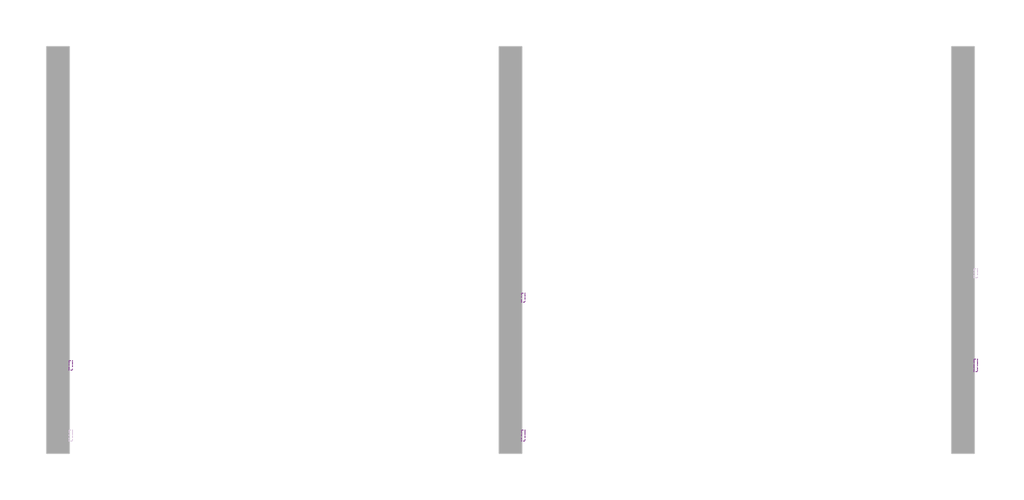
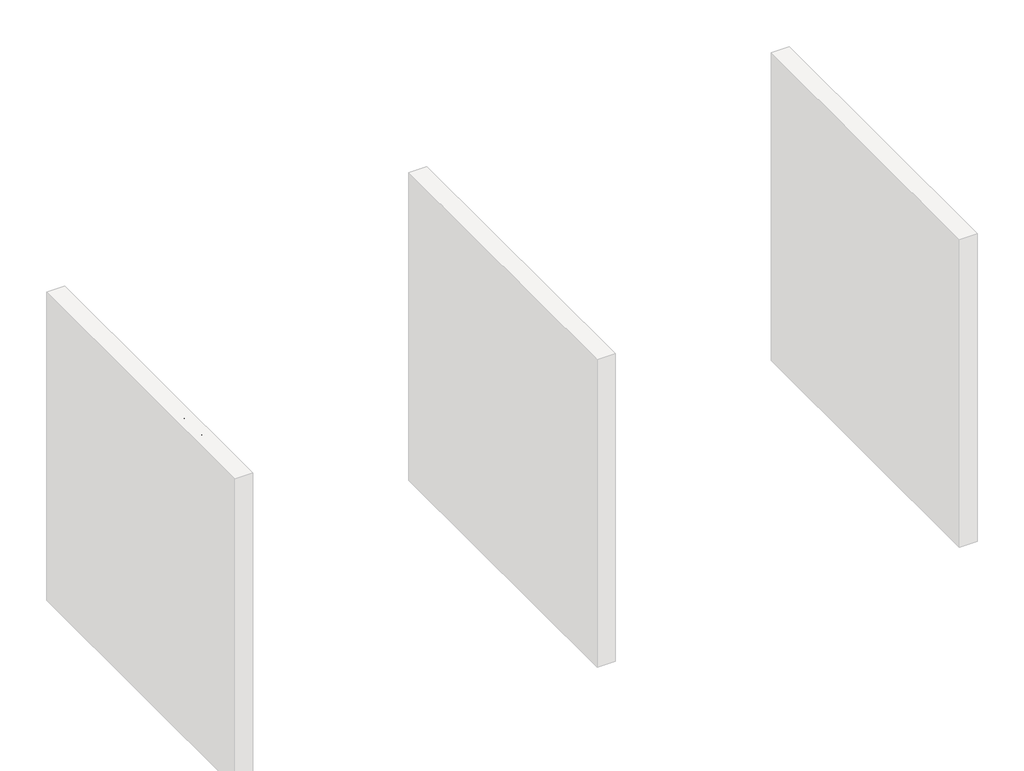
# One storey, part 5 of 7: 4 proxies.
"""IFC4 building model written with IfcOpenShell, lengths in millimetres."""

from ifc_helpers import new_model, si_unit, frame, origin, place, context, project, spatial, polyline, outline, extrude, element, save

model = new_model("IFC4")

# Units and contexts
model_context = context("Model", 3, world=origin())
ifc_project = project(units=[si_unit("LENGTHUNIT", "METRE", prefix="MILLI")], contexts=[model_context])

# Site, building, storey
site = spatial("IfcSite", under=ifc_project)
building = spatial("IfcBuilding", under=site)
storey = spatial("IfcBuildingStorey", under=building, Name="PORTOBELLO - SHOWROOM", Elevation=0.0)

# Proxies
placement = place(None, origin())
element("IfcBuildingElementProxy", 1, Name="10mm Arial", ObjectType="10mm Arial", at=placement, inside=storey, context=model_context, shape_type="SweptSolid", body=[
    extrude(outline(polyline([(3753.9778517, 2553.8086596), (3753.9778517, 2654.2649698), (3792.3111556, 2654.2649698), (3811.0854001, 2651.3096511), (3822.1709109, 2642.2229658), (3826.1808246, 2629.3716214), (3822.808573, 2617.6361858), (3812.6182417, 2608.7457042), (3824.9913395, 2599.3769761), (3829.3200843, 2583.754254), (3826.3647656, 2570.2529848), (3819.0439139, 2560.639002), (3808.1178187, 2555.537705), (3792.01685, 2553.8086596), (3753.9778517, 2553.8086596)]), holes=[polyline([(3766.5348905, 2613.4545938), (3789.4662015, 2613.4545938), (3802.8571061, 2614.5337143), (3810.9137218, 2619.1812902), (3813.6237859, 2627.3605332), (3811.0976628, 2635.552039), (3803.8626502, 2640.3958186), (3787.7248934, 2641.707931), (3766.5348905, 2641.707931), (3766.5348905, 2613.4545938)]), polyline([(3766.5348905, 2566.3656984), (3792.2866301, 2566.3656984), (3801.6063073, 2566.8562077), (3809.4912448, 2569.5907972), (3814.7151691, 2575.1703408), (3816.7630455, 2583.6316267), (3814.3595498, 2593.3927623), (3806.5727143, 2599.2175606), (3791.0603568, 2600.897555), (3766.5348905, 2600.897555), (3766.5348905, 2566.3656984)])]), frame((37576.625413, 0.0, 0.0), z_axis=(1.0, 0.0, 0.0), x_axis=(0.0, 1.0, 0.0)), (0.0, 0.0, 1.0), 20.0),
    extrude(outline(polyline([(37596.625413, 3857.5734215), (37596.625413, 3845.0163828), (37576.625413, 3845.0163828), (37576.625413, 3857.5734215), (37596.625413, 3857.5734215)])), frame((0.0, 0.0, 2641.707931), z_axis=(0.0, 0.0, 1.0), x_axis=(1.0, 0.0, 0.0)), (0.0, 0.0, 1.0), 12.5570388),
    extrude(outline(polyline([(37596.625413, 3857.5734215), (37596.625413, 3845.0163828), (37576.625413, 3845.0163828), (37576.625413, 3857.5734215), (37596.625413, 3857.5734215)])), frame((0.0, 0.0, 2553.8086596), z_axis=(0.0, 0.0, 1.0), x_axis=(1.0, 0.0, 0.0)), (0.0, 0.0, 1.0), 73.7726028),
    extrude(outline(polyline([(3923.4978751, 2563.2264387), (3911.320981, 2554.7161019), (3897.8687627, 2552.2390298), (3887.3749288, 2553.7289519), (3879.6340785, 2558.1987181), (3874.8608096, 2564.9861409), (3873.26972, 2573.4290327), (3875.6732157, 2583.3618466), (3881.9885233, 2590.5723337), (3890.780903, 2594.692612), (3901.6456846, 2596.5810729), (3923.4242987, 2600.897555), (3923.4978751, 2603.6934582), (3920.0397843, 2612.9640844), (3906.1583704, 2616.5938535), (3893.4541788, 2614.178095), (3887.3963886, 2605.6064445), (3874.8393499, 2607.1760744), (3880.2717406, 2619.4388076), (3891.2100986, 2626.6247692), (3907.7770512, 2629.1508922), (3922.995103, 2626.9190748), (3931.591279, 2621.3150057), (3935.4417772, 2612.7924062), (3936.0549138, 2601.8049973), (3936.0549138, 2586.1822752), (3936.692576, 2564.3668729), (3939.1941735, 2553.8086596), (3926.6371348, 2553.8086596), (3923.4978751, 2563.2264387)]), holes=[polyline([(3923.4978751, 2588.3405162), (3903.2398399, 2584.490018), (3892.436372, 2582.4544043), (3887.5435414, 2579.1434664), (3885.8267588, 2574.3119495), (3889.5668924, 2567.5183953), (3900.5420386, 2564.7960685), (3913.2462301, 2567.8004382), (3921.4377359, 2575.0722389), (3923.4242987, 2584.7843236), (3923.4978751, 2588.3405162)])]), frame((37576.625413, 0.0, 0.0), z_axis=(1.0, 0.0, 0.0), x_axis=(0.0, 1.0, 0.0)), (0.0, 0.0, 1.0), 20.0),
    extrude(outline(polyline([(3953.3208422, 2553.8086596), (3953.3208422, 2627.5812624), (3965.8778809, 2627.5812624), (3965.8778809, 2617.2805665), (3975.479601, 2626.1833108), (3988.5884628, 2629.1508922), (4000.4465257, 2626.7596593), (4008.5399296, 2620.4811399), (4012.3045887, 2611.2473018), (4012.9667763, 2599.107196), (4012.9667763, 2553.8086596), (4000.4097375, 2553.8086596), (4000.4097375, 2597.4149388), (3998.962735, 2608.524975), (3993.8491753, 2614.3988242), (3985.2284739, 2616.5938535), (3971.6045773, 2611.6642347), (3967.309555, 2604.5211927), (3965.8778809, 2592.9513039), (3965.8778809, 2553.8086596), (3953.3208422, 2553.8086596)])), frame((37576.625413, 0.0, 0.0), z_axis=(1.0, 0.0, 0.0), x_axis=(0.0, 1.0, 0.0)), (0.0, 0.0, 1.0), 20.0),
    extrude(outline(polyline([(4077.3216, 2580.492367), (4089.8786388, 2578.9227372), (4086.3776284, 2567.7544529), (4079.7986721, 2559.3146268), (4070.7610377, 2554.007929), (4059.8839934, 2552.2390298), (4046.5268113, 2554.7069048), (4036.0820283, 2562.11053), (4029.3405908, 2574.1249428), (4027.0934449, 2590.4251809), (4030.9316804, 2611.28409), (4042.6303279, 2624.6872574), (4059.7123152, 2629.1508922), (4070.322645, 2627.6180506), (4078.8053907, 2623.0195257), (4084.890772, 2615.6005721), (4088.3090089, 2605.6064445), (4075.7519702, 2604.0368147), (4069.9271719, 2613.442331), (4059.810417, 2616.5938535), (4051.6955533, 2615.0426177), (4045.2545528, 2610.3889105), (4041.051501, 2602.3813457), (4039.6504837, 2590.7685374), (4041.0208441, 2578.9993792), (4045.1319254, 2570.9642233), (4051.4564301, 2566.3381072), (4059.4670605, 2564.7960685), (4071.300598, 2568.6465668), (4077.3216, 2580.492367)])), frame((37576.625413, 0.0, 0.0), z_axis=(1.0, 0.0, 0.0), x_axis=(0.0, 1.0, 0.0)), (0.0, 0.0, 1.0), 20.0),
    extrude(outline(polyline([(4097.726788, 2590.694961), (4100.4429834, 2608.4820555), (4108.5915696, 2620.9839119), (4118.6592735, 2627.1091472), (4130.7135402, 2629.1508922), (4143.9051754, 2626.6646231), (4154.4419289, 2619.2058156), (4161.3489134, 2607.3630811), (4163.6512415, 2591.7250306), (4159.5800141, 2569.3823308), (4147.7219511, 2556.7394529), (4130.7135402, 2552.2390298), (4117.3624895, 2554.7161019), (4106.8379987, 2562.1473182), (4100.0045907, 2574.2383731), (4097.726788, 2590.694961)]), holes=[polyline([(4110.2838268, 2590.7194865), (4111.7369606, 2579.3549985), (4116.0963623, 2571.2585289), (4122.6569245, 2566.4116836), (4130.7135402, 2564.7960685), (4138.7333677, 2566.4208807), (4145.2816672, 2571.2953171), (4149.6410689, 2579.4990856), (4151.0942028, 2591.1118939), (4149.6318718, 2602.1452881), (4145.244879, 2610.1313931), (4138.6873825, 2614.9782384), (4130.7135402, 2616.5938535), (4122.6569245, 2614.9843697), (4116.0963623, 2610.1559186), (4111.7369606, 2602.0778431), (4110.2838268, 2590.7194865)])]), frame((37576.625413, 0.0, 0.0), z_axis=(1.0, 0.0, 0.0), x_axis=(0.0, 1.0, 0.0)), (0.0, 0.0, 1.0), 20.0),
    extrude(outline(polyline([(4262.5379218, 2553.8086596), (4262.5379218, 2565.6544599), (4254.2299201, 2555.5928873), (4242.7458705, 2552.2390298), (4227.1967248, 2557.0950721), (4216.2093159, 2570.6453923), (4212.3097668, 2590.6213846), (4215.9027476, 2610.6096397), (4226.6694273, 2624.3684263), (4242.6968196, 2629.1508922), (4254.2728397, 2625.7295897), (4262.5379218, 2616.8391081), (4262.5379218, 2654.2649698), (4275.0949606, 2654.2649698), (4275.0949606, 2553.8086596), (4262.5379218, 2553.8086596)]), holes=[polyline([(4224.8668055, 2590.6704355), (4226.2831512, 2579.3120789), (4230.5321883, 2571.2340035), (4236.7064744, 2566.4055523), (4243.8985674, 2564.7960685), (4251.0875947, 2566.3319759), (4257.105531, 2570.9396979), (4261.1798241, 2578.7050736), (4262.5379218, 2589.7139424), (4261.1552987, 2601.749815), (4257.0074292, 2610.0946049), (4250.8362087, 2614.9690413), (4243.3835326, 2616.5938535), (4236.1178632, 2615.0334207), (4230.1643063, 2610.3521223), (4226.1911807, 2602.310835), (4224.8668055, 2590.6704355)])]), frame((37576.625413, 0.0, 0.0), z_axis=(1.0, 0.0, 0.0), x_axis=(0.0, 1.0, 0.0)), (0.0, 0.0, 1.0), 20.0),
    extrude(outline(polyline([(37596.625413, 4306.4875575), (37596.625413, 4293.9305188), (37576.625413, 4293.9305188), (37576.625413, 4306.4875575), (37596.625413, 4306.4875575)])), frame((0.0, 0.0, 2641.707931), z_axis=(0.0, 0.0, 1.0), x_axis=(1.0, 0.0, 0.0)), (0.0, 0.0, 1.0), 12.5570388),
    extrude(outline(polyline([(37596.625413, 4306.4875575), (37596.625413, 4293.9305188), (37576.625413, 4293.9305188), (37576.625413, 4306.4875575), (37596.625413, 4306.4875575)])), frame((0.0, 0.0, 2553.8086596), z_axis=(0.0, 0.0, 1.0), x_axis=(1.0, 0.0, 0.0)), (0.0, 0.0, 1.0), 73.7726028),
    extrude(outline(polyline([(4366.1334917, 2553.8086596), (4366.1334917, 2654.2649698), (4438.3364646, 2654.2649698), (4438.3364646, 2641.707931), (4378.6905304, 2641.707931), (4378.6905304, 2611.8849639), (4435.1972049, 2611.8849639), (4435.1972049, 2599.3279252), (4378.6905304, 2599.3279252), (4378.6905304, 2566.3656984), (4439.9060944, 2566.3656984), (4439.9060944, 2553.8086596), (4366.1334917, 2553.8086596)])), frame((37576.625413, 0.0, 0.0), z_axis=(1.0, 0.0, 0.0), x_axis=(0.0, 1.0, 0.0)), (0.0, 0.0, 1.0), 20.0),
    extrude(outline(polyline([(37596.625413, 4469.7290615), (37596.625413, 4457.1720227), (37576.625413, 4457.1720227), (37576.625413, 4469.7290615), (37596.625413, 4469.7290615)])), frame((0.0, 0.0, 2553.8086596), z_axis=(0.0, 0.0, 1.0), x_axis=(1.0, 0.0, 0.0)), (0.0, 0.0, 1.0), 100.4563101),
    extrude(outline(polyline([(4501.1216584, 2553.8086596), (4488.5646197, 2553.8086596), (4488.5646197, 2654.2649698), (4501.1216584, 2654.2649698), (4501.1216584, 2617.0107864), (4509.9140381, 2626.1158658), (4520.8401334, 2629.1508922), (4533.4216976, 2626.4163027), (4543.1828332, 2618.727569), (4549.1793097, 2606.7714042), (4551.3498135, 2591.798607), (4549.1026677, 2575.0354507), (4542.3612301, 2562.5642511), (4532.4682701, 2554.8203351), (4520.766557, 2552.2390298), (4509.6013384, 2555.5683618), (4501.1216584, 2565.556358), (4501.1216584, 2553.8086596)]), holes=[polyline([(4501.1216584, 2591.2099958), (4504.5552237, 2573.6497619), (4511.1341801, 2567.0094919), (4519.6874365, 2564.7960685), (4526.9347118, 2566.4270121), (4533.127392, 2571.3198426), (4537.3764291, 2579.4439033), (4538.7927747, 2590.7685374), (4537.434677, 2602.2587184), (4533.360384, 2610.2908086), (4527.3608417, 2615.0180923), (4520.2269967, 2616.5938535), (4512.9797214, 2614.96291), (4506.7870412, 2610.0700794), (4502.5380041, 2602.0931715), (4501.1216584, 2591.2099958)])]), frame((37576.625413, 0.0, 0.0), z_axis=(1.0, 0.0, 0.0), x_axis=(0.0, 1.0, 0.0)), (0.0, 0.0, 1.0), 20.0),
    extrude(outline(polyline([(4612.5653775, 2563.2264387), (4600.3884835, 2554.7161019), (4586.9362652, 2552.2390298), (4576.4424313, 2553.7289519), (4568.701581, 2558.1987181), (4563.9283121, 2564.9861409), (4562.3372224, 2573.4290327), (4564.7407181, 2583.3618466), (4571.0560257, 2590.5723337), (4579.8484054, 2594.692612), (4590.713187, 2596.5810729), (4612.4918011, 2600.897555), (4612.5653775, 2603.6934582), (4609.1072868, 2612.9640844), (4595.2258728, 2616.5938535), (4582.5216812, 2614.178095), (4576.4638911, 2605.6064445), (4563.9068523, 2607.1760744), (4569.3392431, 2619.4388076), (4580.2776011, 2626.6247692), (4596.8445536, 2629.1508922), (4612.0626055, 2626.9190748), (4620.6587814, 2621.3150057), (4624.5092796, 2612.7924062), (4625.1224163, 2601.8049973), (4625.1224163, 2586.1822752), (4625.7600784, 2564.3668729), (4628.261676, 2553.8086596), (4615.7046372, 2553.8086596), (4612.5653775, 2563.2264387)]), holes=[polyline([(4612.5653775, 2588.3405162), (4592.3073423, 2584.490018), (4581.5038744, 2582.4544043), (4576.6110439, 2579.1434664), (4574.8942612, 2574.3119495), (4578.6343948, 2567.5183953), (4589.609541, 2564.7960685), (4602.3137326, 2567.8004382), (4610.5052383, 2575.0722389), (4612.4918011, 2584.7843236), (4612.5653775, 2588.3405162)])]), frame((37576.625413, 0.0, 0.0), z_axis=(1.0, 0.0, 0.0), x_axis=(0.0, 1.0, 0.0)), (0.0, 0.0, 1.0), 20.0),
])
element("IfcBuildingElementProxy", 2, Name="10mm Arial", ObjectType="10mm Arial", at=placement, inside=storey, context=model_context, shape_type="SweptSolid", body=[
    extrude(outline(polyline([(3753.9778517, 2553.8086596), (3753.9778517, 2654.2649698), (3792.3111556, 2654.2649698), (3811.0854001, 2651.3096511), (3822.1709109, 2642.2229658), (3826.1808246, 2629.3716214), (3822.808573, 2617.6361858), (3812.6182417, 2608.7457042), (3824.9913395, 2599.3769761), (3829.3200843, 2583.754254), (3826.3647656, 2570.2529848), (3819.0439139, 2560.639002), (3808.1178187, 2555.537705), (3792.01685, 2553.8086596), (3753.9778517, 2553.8086596)]), holes=[polyline([(3766.5348905, 2613.4545938), (3789.4662015, 2613.4545938), (3802.8571061, 2614.5337143), (3810.9137218, 2619.1812902), (3813.6237859, 2627.3605332), (3811.0976628, 2635.552039), (3803.8626502, 2640.3958186), (3787.7248934, 2641.707931), (3766.5348905, 2641.707931), (3766.5348905, 2613.4545938)]), polyline([(3766.5348905, 2566.3656984), (3792.2866301, 2566.3656984), (3801.6063073, 2566.8562077), (3809.4912448, 2569.5907972), (3814.7151691, 2575.1703408), (3816.7630455, 2583.6316267), (3814.3595498, 2593.3927623), (3806.5727143, 2599.2175606), (3791.0603568, 2600.897555), (3766.5348905, 2600.897555), (3766.5348905, 2566.3656984)])]), frame((40576.625413, 0.0, 0.0), z_axis=(1.0, 0.0, 0.0), x_axis=(0.0, 1.0, 0.0)), (0.0, 0.0, 1.0), 20.0),
    extrude(outline(polyline([(40596.625413, 3857.5734215), (40596.625413, 3845.0163828), (40576.625413, 3845.0163828), (40576.625413, 3857.5734215), (40596.625413, 3857.5734215)])), frame((0.0, 0.0, 2641.707931), z_axis=(0.0, 0.0, 1.0), x_axis=(1.0, 0.0, 0.0)), (0.0, 0.0, 1.0), 12.5570388),
    extrude(outline(polyline([(40596.625413, 3857.5734215), (40596.625413, 3845.0163828), (40576.625413, 3845.0163828), (40576.625413, 3857.5734215), (40596.625413, 3857.5734215)])), frame((0.0, 0.0, 2553.8086596), z_axis=(0.0, 0.0, 1.0), x_axis=(1.0, 0.0, 0.0)), (0.0, 0.0, 1.0), 73.7726028),
    extrude(outline(polyline([(3923.4978751, 2563.2264387), (3911.320981, 2554.7161019), (3897.8687627, 2552.2390298), (3887.3749288, 2553.7289519), (3879.6340785, 2558.1987181), (3874.8608096, 2564.9861409), (3873.26972, 2573.4290327), (3875.6732157, 2583.3618466), (3881.9885233, 2590.5723337), (3890.780903, 2594.692612), (3901.6456846, 2596.5810729), (3923.4242987, 2600.897555), (3923.4978751, 2603.6934582), (3920.0397843, 2612.9640844), (3906.1583704, 2616.5938535), (3893.4541788, 2614.178095), (3887.3963886, 2605.6064445), (3874.8393499, 2607.1760744), (3880.2717406, 2619.4388076), (3891.2100986, 2626.6247692), (3907.7770512, 2629.1508922), (3922.995103, 2626.9190748), (3931.591279, 2621.3150057), (3935.4417772, 2612.7924062), (3936.0549138, 2601.8049973), (3936.0549138, 2586.1822752), (3936.692576, 2564.3668729), (3939.1941735, 2553.8086596), (3926.6371348, 2553.8086596), (3923.4978751, 2563.2264387)]), holes=[polyline([(3923.4978751, 2588.3405162), (3903.2398399, 2584.490018), (3892.436372, 2582.4544043), (3887.5435414, 2579.1434664), (3885.8267588, 2574.3119495), (3889.5668924, 2567.5183953), (3900.5420386, 2564.7960685), (3913.2462301, 2567.8004382), (3921.4377359, 2575.0722389), (3923.4242987, 2584.7843236), (3923.4978751, 2588.3405162)])]), frame((40576.625413, 0.0, 0.0), z_axis=(1.0, 0.0, 0.0), x_axis=(0.0, 1.0, 0.0)), (0.0, 0.0, 1.0), 20.0),
    extrude(outline(polyline([(3953.3208422, 2553.8086596), (3953.3208422, 2627.5812624), (3965.8778809, 2627.5812624), (3965.8778809, 2617.2805665), (3975.479601, 2626.1833108), (3988.5884628, 2629.1508922), (4000.4465257, 2626.7596593), (4008.5399296, 2620.4811399), (4012.3045887, 2611.2473018), (4012.9667763, 2599.107196), (4012.9667763, 2553.8086596), (4000.4097375, 2553.8086596), (4000.4097375, 2597.4149388), (3998.962735, 2608.524975), (3993.8491753, 2614.3988242), (3985.2284739, 2616.5938535), (3971.6045773, 2611.6642347), (3967.309555, 2604.5211927), (3965.8778809, 2592.9513039), (3965.8778809, 2553.8086596), (3953.3208422, 2553.8086596)])), frame((40576.625413, 0.0, 0.0), z_axis=(1.0, 0.0, 0.0), x_axis=(0.0, 1.0, 0.0)), (0.0, 0.0, 1.0), 20.0),
    extrude(outline(polyline([(4077.3216, 2580.492367), (4089.8786388, 2578.9227372), (4086.3776284, 2567.7544529), (4079.7986721, 2559.3146268), (4070.7610377, 2554.007929), (4059.8839934, 2552.2390298), (4046.5268113, 2554.7069048), (4036.0820283, 2562.11053), (4029.3405908, 2574.1249428), (4027.0934449, 2590.4251809), (4030.9316804, 2611.28409), (4042.6303279, 2624.6872574), (4059.7123152, 2629.1508922), (4070.322645, 2627.6180506), (4078.8053907, 2623.0195257), (4084.890772, 2615.6005721), (4088.3090089, 2605.6064445), (4075.7519702, 2604.0368147), (4069.9271719, 2613.442331), (4059.810417, 2616.5938535), (4051.6955533, 2615.0426177), (4045.2545528, 2610.3889105), (4041.051501, 2602.3813457), (4039.6504837, 2590.7685374), (4041.0208441, 2578.9993792), (4045.1319254, 2570.9642233), (4051.4564301, 2566.3381072), (4059.4670605, 2564.7960685), (4071.300598, 2568.6465668), (4077.3216, 2580.492367)])), frame((40576.625413, 0.0, 0.0), z_axis=(1.0, 0.0, 0.0), x_axis=(0.0, 1.0, 0.0)), (0.0, 0.0, 1.0), 20.0),
    extrude(outline(polyline([(4097.726788, 2590.694961), (4100.4429834, 2608.4820555), (4108.5915696, 2620.9839119), (4118.6592735, 2627.1091472), (4130.7135402, 2629.1508922), (4143.9051754, 2626.6646231), (4154.4419289, 2619.2058156), (4161.3489134, 2607.3630811), (4163.6512415, 2591.7250306), (4159.5800141, 2569.3823308), (4147.7219511, 2556.7394529), (4130.7135402, 2552.2390298), (4117.3624895, 2554.7161019), (4106.8379987, 2562.1473182), (4100.0045907, 2574.2383731), (4097.726788, 2590.694961)]), holes=[polyline([(4110.2838268, 2590.7194865), (4111.7369606, 2579.3549985), (4116.0963623, 2571.2585289), (4122.6569245, 2566.4116836), (4130.7135402, 2564.7960685), (4138.7333677, 2566.4208807), (4145.2816672, 2571.2953171), (4149.6410689, 2579.4990856), (4151.0942028, 2591.1118939), (4149.6318718, 2602.1452881), (4145.244879, 2610.1313931), (4138.6873825, 2614.9782384), (4130.7135402, 2616.5938535), (4122.6569245, 2614.9843697), (4116.0963623, 2610.1559186), (4111.7369606, 2602.0778431), (4110.2838268, 2590.7194865)])]), frame((40576.625413, 0.0, 0.0), z_axis=(1.0, 0.0, 0.0), x_axis=(0.0, 1.0, 0.0)), (0.0, 0.0, 1.0), 20.0),
    extrude(outline(polyline([(4289.2216292, 2589.5177386), (4301.778668, 2586.2803771), (4295.9845266, 2571.6478707), (4286.8917099, 2560.9578331), (4274.9478078, 2554.4187306), (4260.60041, 2552.2390298), (4246.0353487, 2553.8883674), (4234.4685256, 2558.8363802), (4225.6025695, 2566.91139), (4219.1401091, 2577.9417185), (4213.8793966, 2604.7971042), (4215.366253, 2619.4449389), (4219.8268222, 2632.0939482), (4227.0281123, 2642.3425274), (4236.7371312, 2649.7890722), (4248.2518377, 2654.3232178), (4260.8701901, 2655.8345996), (4274.6381738, 2653.8786937), (4286.0210559, 2648.0109759), (4294.6632171, 2638.5931968), (4300.2090381, 2625.9871071), (4287.6519994, 2622.9950002), (4277.3513035, 2638.4337812), (4260.3796808, 2643.2775609), (4240.7347823, 2637.9064837), (4229.6370087, 2623.4855095), (4226.4364354, 2604.8216296), (4230.2256199, 2583.1901683), (4242.0223692, 2569.370068), (4259.3496112, 2564.7960685), (4269.8311824, 2566.3534357), (4278.5653141, 2571.025537), (4285.1595989, 2578.7633216), (4289.2216292, 2589.5177386)])), frame((40576.625413, 0.0, 0.0), z_axis=(1.0, 0.0, 0.0), x_axis=(0.0, 1.0, 0.0)), (0.0, 0.0, 1.0), 20.0),
    extrude(outline(polyline([(4314.3357068, 2590.694961), (4317.0519022, 2608.4820555), (4325.2004883, 2620.9839119), (4335.2681923, 2627.1091472), (4347.322459, 2629.1508922), (4360.5140942, 2626.6646231), (4371.0508477, 2619.2058156), (4377.9578321, 2607.3630811), (4380.2601603, 2591.7250306), (4376.1889329, 2569.3823308), (4364.3308699, 2556.7394529), (4347.322459, 2552.2390298), (4333.9714082, 2554.7161019), (4323.4469175, 2562.1473182), (4316.6135094, 2574.2383731), (4314.3357068, 2590.694961)]), holes=[polyline([(4326.8927455, 2590.7194865), (4328.3458794, 2579.3549985), (4332.705281, 2571.2585289), (4339.2658433, 2566.4116836), (4347.322459, 2564.7960685), (4355.3422865, 2566.4208807), (4361.890586, 2571.2953171), (4366.2499876, 2579.4990856), (4367.7031215, 2591.1118939), (4366.2407906, 2602.1452881), (4361.8537978, 2610.1313931), (4355.2963012, 2614.9782384), (4347.322459, 2616.5938535), (4339.2658433, 2614.9843697), (4332.705281, 2610.1559186), (4328.3458794, 2602.0778431), (4326.8927455, 2590.7194865)])]), frame((40576.625413, 0.0, 0.0), z_axis=(1.0, 0.0, 0.0), x_axis=(0.0, 1.0, 0.0)), (0.0, 0.0, 1.0), 20.0),
    extrude(outline(polyline([(4412.4866231, 2553.8086596), (4386.5386797, 2627.5812624), (4399.8314824, 2627.5812624), (4415.5523064, 2583.386372), (4420.2857214, 2568.5239394), (4424.9210345, 2582.5525062), (4440.7399603, 2627.5812624), (4454.0327631, 2627.5812624), (4428.4036507, 2553.8086596), (4412.4866231, 2553.8086596)])), frame((40576.625413, 0.0, 0.0), z_axis=(1.0, 0.0, 0.0), x_axis=(0.0, 1.0, 0.0)), (0.0, 0.0, 1.0), 20.0),
    extrude(outline(polyline([(4516.6708041, 2575.7834775), (4528.9825882, 2574.2138476), (4524.5465445, 2564.93709), (4517.4678818, 2558.0025144), (4507.9060156, 2553.6799009), (4496.0203614, 2552.2390298), (4481.2866875, 2554.7252989), (4469.9497907, 2562.1841064), (4462.7209095, 2574.1310742), (4460.3112824, 2590.0818243), (4462.745435, 2606.5690691), (4470.0478926, 2618.8992473), (4481.2315052, 2626.587981), (4495.3091229, 2629.1508922), (4508.9483479, 2626.5941124), (4519.846852, 2618.9237728), (4526.9929598, 2606.61812), (4529.3749957, 2590.1554007), (4529.3014193, 2586.7708864), (4472.8683212, 2586.7708864), (4475.0418907, 2577.3715014), (4480.091071, 2570.4614513), (4487.3782002, 2566.2124142), (4496.2656161, 2564.7960685), (4508.5774002, 2567.4202934), (4516.6708041, 2575.7834775)]), holes=[polyline([(4472.8683212, 2599.3279252), (4516.8179569, 2599.3279252), (4511.7902363, 2610.7077415), (4504.4693846, 2615.1223255), (4495.260072, 2616.5938535), (4479.7967655, 2611.8972267), (4474.9315261, 2606.4065879), (4472.8683212, 2599.3279252)])]), frame((40576.625413, 0.0, 0.0), z_axis=(1.0, 0.0, 0.0), x_axis=(0.0, 1.0, 0.0)), (0.0, 0.0, 1.0), 20.0),
    extrude(outline(polyline([(40596.625413, 4554.4890732), (40596.625413, 4541.9320344), (40576.625413, 4541.9320344), (40576.625413, 4554.4890732), (40596.625413, 4554.4890732)])), frame((0.0, 0.0, 2553.8086596), z_axis=(0.0, 0.0, 1.0), x_axis=(1.0, 0.0, 0.0)), (0.0, 0.0, 1.0), 100.4563101),
    extrude(outline(polyline([(4620.4135267, 2563.2264387), (4608.2366327, 2554.7161019), (4594.7844144, 2552.2390298), (4584.2905805, 2553.7289519), (4576.5497302, 2558.1987181), (4571.7764613, 2564.9861409), (4570.1853717, 2573.4290327), (4572.5888674, 2583.3618466), (4578.904175, 2590.5723337), (4587.6965546, 2594.692612), (4598.5613362, 2596.5810729), (4620.3399503, 2600.897555), (4620.4135267, 2603.6934582), (4616.955436, 2612.9640844), (4603.074022, 2616.5938535), (4590.3698305, 2614.178095), (4584.3120403, 2605.6064445), (4571.7550015, 2607.1760744), (4577.1873923, 2619.4388076), (4588.1257503, 2626.6247692), (4604.6927028, 2629.1508922), (4619.9107547, 2626.9190748), (4628.5069306, 2621.3150057), (4632.3574289, 2612.7924062), (4632.9705655, 2601.8049973), (4632.9705655, 2586.1822752), (4633.6082276, 2564.3668729), (4636.1098252, 2553.8086596), (4623.5527864, 2553.8086596), (4620.4135267, 2563.2264387)]), holes=[polyline([(4620.4135267, 2588.3405162), (4600.1554915, 2584.490018), (4589.3520236, 2582.4544043), (4584.4591931, 2579.1434664), (4582.7424104, 2574.3119495), (4586.4825441, 2567.5183953), (4597.4576902, 2564.7960685), (4610.1618818, 2567.8004382), (4618.3533876, 2575.0722389), (4620.3399503, 2584.7843236), (4620.4135267, 2588.3405162)])]), frame((40576.625413, 0.0, 0.0), z_axis=(1.0, 0.0, 0.0), x_axis=(0.0, 1.0, 0.0)), (0.0, 0.0, 1.0), 20.0),
    extrude(outline(polyline([(4650.2364938, 2553.8086596), (4650.2364938, 2627.5812624), (4662.7935326, 2627.5812624), (4662.7935326, 2617.2805665), (4672.3952527, 2626.1833108), (4685.5041144, 2629.1508922), (4697.3621774, 2626.7596593), (4705.4555813, 2620.4811399), (4709.2202404, 2611.2473018), (4709.882428, 2599.107196), (4709.882428, 2553.8086596), (4697.3253892, 2553.8086596), (4697.3253892, 2597.4149388), (4695.8783867, 2608.524975), (4690.764827, 2614.3988242), (4682.1441255, 2616.5938535), (4668.520229, 2611.6642347), (4664.2252067, 2604.5211927), (4662.7935326, 2592.9513039), (4662.7935326, 2553.8086596), (4650.2364938, 2553.8086596)])), frame((40576.625413, 0.0, 0.0), z_axis=(1.0, 0.0, 0.0), x_axis=(0.0, 1.0, 0.0)), (0.0, 0.0, 1.0), 20.0),
    extrude(outline(polyline([(4724.0090966, 2590.694961), (4726.725292, 2608.4820555), (4734.8738782, 2620.9839119), (4744.9415821, 2627.1091472), (4756.9958488, 2629.1508922), (4770.187484, 2626.6646231), (4780.7242375, 2619.2058156), (4787.631222, 2607.3630811), (4789.9335501, 2591.7250306), (4785.8623227, 2569.3823308), (4774.0042597, 2556.7394529), (4756.9958488, 2552.2390298), (4743.6447981, 2554.7161019), (4733.1203073, 2562.1473182), (4726.2868993, 2574.2383731), (4724.0090966, 2590.694961)]), holes=[polyline([(4736.5661354, 2590.7194865), (4738.0192692, 2579.3549985), (4742.3786709, 2571.2585289), (4748.9392331, 2566.4116836), (4756.9958488, 2564.7960685), (4765.0156763, 2566.4208807), (4771.5639758, 2571.2953171), (4775.9233775, 2579.4990856), (4777.3765114, 2591.1118939), (4775.9141804, 2602.1452881), (4771.5271876, 2610.1313931), (4764.9696911, 2614.9782384), (4756.9958488, 2616.5938535), (4748.9392331, 2614.9843697), (4742.3786709, 2610.1559186), (4738.0192692, 2602.0778431), (4736.5661354, 2590.7194865)])]), frame((40576.625413, 0.0, 0.0), z_axis=(1.0, 0.0, 0.0), x_axis=(0.0, 1.0, 0.0)), (0.0, 0.0, 1.0), 20.0),
])
element("IfcBuildingElementProxy", 3, Name="10mm Arial Narrow", ObjectType="10mm Arial Narrow", at=placement, inside=storey, context=model_context, shape_type="SweptSolid", body=[
    extrude(outline(polyline([(4226.2917513, 2553.8086596), (4226.2917513, 2654.5272634), (4257.588636, 2654.5272634), (4273.8843375, 2652.6489426), (4285.3573236, 2643.1684995), (4289.6470021, 2626.1493906), (4287.8606937, 2614.0735651), (4282.5017685, 2604.4471713), (4272.7579797, 2598.1459129), (4257.8170804, 2596.0454935), (4236.038713, 2596.0454935), (4236.038713, 2553.8086596), (4226.2917513, 2553.8086596)]), holes=[polyline([(4236.038713, 2607.4169487), (4259.0100679, 2607.4169487), (4274.8742633, 2611.9477629), (4279.9000404, 2625.6163537), (4277.4252259, 2635.7821301), (4271.4475971, 2641.5820799), (4258.7816235, 2643.1558081), (4236.038713, 2643.1558081), (4236.038713, 2607.4169487)])]), frame((34576.625413, 0.0, 0.0), z_axis=(1.0, 0.0, 0.0), x_axis=(0.0, 1.0, 0.0)), (0.0, 0.0, 1.0), 20.0),
    extrude(outline(polyline([(4297.7694701, 2590.3597658), (4299.723939, 2606.9505414), (4305.5873456, 2618.9026262), (4314.4459123, 2626.1271808), (4325.3858615, 2628.5353656), (4336.1988971, 2626.1271808), (4345.0828465, 2618.9026262), (4351.0224012, 2607.1409117), (4353.0022528, 2591.1212472), (4351.0573025, 2573.9593606), (4345.2224514, 2561.8169055), (4336.3734032, 2554.5923509), (4325.3858615, 2552.184166), (4314.5252333, 2554.5986966), (4305.6508024, 2561.8422882), (4299.7398032, 2573.8007187), (4297.7694701, 2590.3597658)]), holes=[polyline([(4307.5164318, 2590.3851485), (4308.8204686, 2577.8333971), (4312.7325792, 2568.9621391), (4318.573776, 2563.6888805), (4325.6650713, 2561.9311277), (4332.3851445, 2563.7047447), (4338.0772178, 2569.0255959), (4341.9607728, 2577.9127181), (4343.2552912, 2590.3851485), (4341.9512543, 2602.8988259), (4338.0391437, 2611.7573926), (4332.197947, 2617.0306511), (4325.1066516, 2618.788404), (4318.3389859, 2617.0211326), (4312.6564311, 2611.7193185), (4308.8014316, 2602.8512333), (4307.5164318, 2590.3851485)])]), frame((34576.625413, 0.0, 0.0), z_axis=(1.0, 0.0, 0.0), x_axis=(0.0, 1.0, 0.0)), (0.0, 0.0, 1.0), 20.0),
    extrude(outline(polyline([(4424.4799716, 2561.9311277), (4426.1044652, 2552.184166), (4418.7434786, 2552.184166), (4410.4687142, 2554.3036225), (4406.1536531, 2560.1035724), (4404.9860483, 2574.7493976), (4404.9860483, 2617.1639104), (4396.8635803, 2617.1639104), (4396.8635803, 2620.4128976), (4395.2390867, 2615.5394168), (4387.6750383, 2617.1639104), (4381.5958786, 2614.8413922), (4377.7250149, 2608.3561091), (4375.7451634, 2592.9488025), (4375.7451634, 2553.8086596), (4365.9982017, 2553.8086596), (4365.9982017, 2626.910872), (4375.7451634, 2626.910872), (4375.7451634, 2617.2146758), (4381.9893107, 2626.3016869), (4388.3857542, 2628.5353656), (4396.8635803, 2626.910872), (4404.9860483, 2626.910872), (4404.9860483, 2643.1558081), (4414.73301, 2651.2782762), (4414.73301, 2626.910872), (4424.4799716, 2626.910872), (4424.4799716, 2617.1639104), (4414.73301, 2617.1639104), (4414.73301, 2572.5157188), (4415.5960222, 2564.5201644), (4420.2156759, 2561.9311277), (4424.4799716, 2561.9311277)])), frame((34576.625413, 0.0, 0.0), z_axis=(1.0, 0.0, 0.0), x_axis=(0.0, 1.0, 0.0)), (0.0, 0.0, 1.0), 20.0),
    extrude(outline(polyline([(4430.9779461, 2590.3597658), (4432.9324149, 2606.9505414), (4438.7958215, 2618.9026262), (4447.6543883, 2626.1271808), (4458.5943374, 2628.5353656), (4469.407373, 2626.1271808), (4478.2913224, 2618.9026262), (4484.2308772, 2607.1409117), (4486.2107288, 2591.1212472), (4484.2657784, 2573.9593606), (4478.4309273, 2561.8169055), (4469.5818791, 2554.5923509), (4458.5943374, 2552.184166), (4447.7337092, 2554.5986966), (4438.8592783, 2561.8422882), (4432.9482791, 2573.8007187), (4430.9779461, 2590.3597658)]), holes=[polyline([(4440.7249077, 2590.3851485), (4442.0289446, 2577.8333971), (4445.9410552, 2568.9621391), (4451.7822519, 2563.6888805), (4458.8735472, 2561.9311277), (4465.5936204, 2563.7047447), (4471.2856937, 2569.0255959), (4475.1692488, 2577.9127181), (4476.4637671, 2590.3851485), (4475.1597302, 2602.8988259), (4471.2476197, 2611.7573926), (4465.4064229, 2617.0306511), (4458.3151276, 2618.788404), (4451.5474618, 2617.0211326), (4445.864907, 2611.7193185), (4442.0099075, 2602.8512333), (4440.7249077, 2590.3851485)])]), frame((34576.625413, 0.0, 0.0), z_axis=(1.0, 0.0, 0.0), x_axis=(0.0, 1.0, 0.0)), (0.0, 0.0, 1.0), 20.0),
    extrude(outline(polyline([(4508.9536393, 2553.8086596), (4499.2066776, 2553.8086596), (4499.2066776, 2654.5272634), (4508.9536393, 2654.5272634), (4508.9536393, 2619.1183792), (4516.3527, 2626.2001561), (4525.5539333, 2628.5353656), (4538.43566, 2624.3345267), (4547.7130415, 2611.6050963), (4551.1904731, 2590.9181855), (4549.2582141, 2574.463842), (4543.4614371, 2562.2611029), (4535.0883148, 2554.7034002), (4525.4270198, 2552.184166), (4516.0861815, 2554.7985854), (4508.9536393, 2562.5656955), (4508.9536393, 2553.8086596)]), holes=[polyline([(4508.9536393, 2590.9181855), (4511.0350217, 2573.6706323), (4516.9238111, 2564.9389791), (4525.3762544, 2561.9311277), (4531.318982, 2563.7206089), (4536.5573393, 2569.0890526), (4541.4435115, 2590.5120621), (4536.7350183, 2611.9477629), (4531.4903153, 2617.0782437), (4525.1731927, 2618.788404), (4519.1955638, 2616.9989227), (4513.9032682, 2611.630479), (4508.9536393, 2590.9181855)])]), frame((34576.625413, 0.0, 0.0), z_axis=(1.0, 0.0, 0.0), x_axis=(0.0, 1.0, 0.0)), (0.0, 0.0, 1.0), 20.0),
    extrude(outline(polyline([(4603.1742686, 2576.5515701), (4612.9212303, 2574.9270765), (4609.2216999, 2565.04051), (4603.402713, 2557.9206591), (4595.6990597, 2553.6182893), (4586.3455301, 2552.184166), (4574.7519761, 2554.5986966), (4565.6078539, 2561.8422882), (4559.6682991, 2573.6484224), (4557.6884475, 2589.7505807), (4559.6778177, 2606.4175044), (4565.645928, 2618.5980336), (4574.6599638, 2626.0510326), (4585.7871104, 2628.5353656), (4596.4700596, 2626.1366993), (4605.217577, 2618.9407003), (4611.052428, 2607.2011957), (4612.9973784, 2591.1720126), (4612.9212303, 2587.9230254), (4567.4354092, 2587.9230254), (4573.4384207, 2568.4798675), (4579.368457, 2563.5683126), (4586.4724437, 2561.9311277), (4596.6509115, 2565.5862383), (4603.1742686, 2576.5515701)]), holes=[polyline([(4568.0953597, 2597.6699871), (4603.1742686, 2597.6699871), (4598.9099729, 2611.9350716), (4593.0846403, 2617.0750709), (4585.8632586, 2618.788404), (4573.6541738, 2613.0772936), (4568.0953597, 2597.6699871)])]), frame((34576.625413, 0.0, 0.0), z_axis=(1.0, 0.0, 0.0), x_axis=(0.0, 1.0, 0.0)), (0.0, 0.0, 1.0), 20.0),
    extrude(outline(polyline([(34596.625413, 4635.6641408), (34596.625413, 4625.9171791), (34576.625413, 4625.9171791), (34576.625413, 4635.6641408), (34596.625413, 4635.6641408)])), frame((0.0, 0.0, 2553.8086596), z_axis=(0.0, 0.0, 1.0), x_axis=(1.0, 0.0, 0.0)), (0.0, 0.0, 1.0), 100.7186038),
    extrude(outline(polyline([(34596.625413, 4661.6560385), (34596.625413, 4651.9090769), (34576.625413, 4651.9090769), (34576.625413, 4661.6560385), (34596.625413, 4661.6560385)])), frame((0.0, 0.0, 2553.8086596), z_axis=(0.0, 0.0, 1.0), x_axis=(1.0, 0.0, 0.0)), (0.0, 0.0, 1.0), 100.7186038),
    extrude(outline(polyline([(4673.0274938, 2590.3597658), (4674.9819627, 2606.9505414), (4680.8453693, 2618.9026262), (4689.703936, 2626.1271808), (4700.6438851, 2628.5353656), (4711.4569207, 2626.1271808), (4720.3408701, 2618.9026262), (4726.2804249, 2607.1409117), (4728.2602765, 2591.1212472), (4726.3153261, 2573.9593606), (4720.4804751, 2561.8169055), (4711.6314269, 2554.5923509), (4700.6438851, 2552.184166), (4689.783257, 2554.5986966), (4680.9088261, 2561.8422882), (4674.9978269, 2573.8007187), (4673.0274938, 2590.3597658)]), holes=[polyline([(4682.7744554, 2590.3851485), (4684.0784923, 2577.8333971), (4687.9906029, 2568.9621391), (4693.8317996, 2563.6888805), (4700.923095, 2561.9311277), (4707.6431681, 2563.7047447), (4713.3352415, 2569.0255959), (4717.2187965, 2577.9127181), (4718.5133148, 2590.3851485), (4717.209278, 2602.8988259), (4713.2971674, 2611.7573926), (4707.4559706, 2617.0306511), (4700.3646753, 2618.788404), (4693.5970095, 2617.0211326), (4687.9144547, 2611.7193185), (4684.0594553, 2602.8512333), (4682.7744554, 2590.3851485)])]), frame((34576.625413, 0.0, 0.0), z_axis=(1.0, 0.0, 0.0), x_axis=(0.0, 1.0, 0.0)), (0.0, 0.0, 1.0), 20.0),
])
element("IfcBuildingElementProxy", 4, Name="10mm Arial Narrow", ObjectType="10mm Arial Narrow", at=placement, inside=storey, context=model_context, shape_type="SweptSolid", body=[
    extrude(outline(polyline([(4676.2917513, 2553.8086596), (4676.2917513, 2654.5272634), (4707.588636, 2654.5272634), (4723.8843375, 2652.6489426), (4735.3573236, 2643.1684995), (4739.6470021, 2626.1493906), (4737.8606937, 2614.0735651), (4732.5017685, 2604.4471713), (4722.7579797, 2598.1459129), (4707.8170804, 2596.0454935), (4686.038713, 2596.0454935), (4686.038713, 2553.8086596), (4676.2917513, 2553.8086596)]), holes=[polyline([(4686.038713, 2607.4169487), (4709.0100679, 2607.4169487), (4724.8742633, 2611.9477629), (4729.9000404, 2625.6163537), (4727.4252259, 2635.7821301), (4721.4475971, 2641.5820799), (4708.7816235, 2643.1558081), (4686.038713, 2643.1558081), (4686.038713, 2607.4169487)])]), frame((37576.625413, 0.0, 0.0), z_axis=(1.0, 0.0, 0.0), x_axis=(0.0, 1.0, 0.0)), (0.0, 0.0, 1.0), 20.0),
    extrude(outline(polyline([(4747.7694701, 2590.3597658), (4749.723939, 2606.9505414), (4755.5873456, 2618.9026262), (4764.4459123, 2626.1271808), (4775.3858615, 2628.5353656), (4786.1988971, 2626.1271808), (4795.0828465, 2618.9026262), (4801.0224012, 2607.1409117), (4803.0022528, 2591.1212472), (4801.0573025, 2573.9593606), (4795.2224514, 2561.8169055), (4786.3734032, 2554.5923509), (4775.3858615, 2552.184166), (4764.5252333, 2554.5986966), (4755.6508024, 2561.8422882), (4749.7398032, 2573.8007187), (4747.7694701, 2590.3597658)]), holes=[polyline([(4757.5164318, 2590.3851485), (4758.8204686, 2577.8333971), (4762.7325792, 2568.9621391), (4768.573776, 2563.6888805), (4775.6650713, 2561.9311277), (4782.3851445, 2563.7047447), (4788.0772178, 2569.0255959), (4791.9607728, 2577.9127181), (4793.2552912, 2590.3851485), (4791.9512543, 2602.8988259), (4788.0391437, 2611.7573926), (4782.197947, 2617.0306511), (4775.1066516, 2618.788404), (4768.3389859, 2617.0211326), (4762.6564311, 2611.7193185), (4758.8014316, 2602.8512333), (4757.5164318, 2590.3851485)])]), frame((37576.625413, 0.0, 0.0), z_axis=(1.0, 0.0, 0.0), x_axis=(0.0, 1.0, 0.0)), (0.0, 0.0, 1.0), 20.0),
    extrude(outline(polyline([(4874.4799716, 2561.9311277), (4876.1044652, 2552.184166), (4868.7434786, 2552.184166), (4860.4687142, 2554.3036225), (4856.1536531, 2560.1035724), (4854.9860483, 2574.7493976), (4854.9860483, 2617.1639104), (4846.8635803, 2617.1639104), (4846.8635803, 2620.4128976), (4845.2390867, 2615.5394168), (4837.6750383, 2617.1639104), (4831.5958786, 2614.8413922), (4827.7250149, 2608.3561091), (4825.7451634, 2592.9488025), (4825.7451634, 2553.8086596), (4815.9982017, 2553.8086596), (4815.9982017, 2626.910872), (4825.7451634, 2626.910872), (4825.7451634, 2617.2146758), (4831.9893107, 2626.3016869), (4838.3857542, 2628.5353656), (4846.8635803, 2626.910872), (4854.9860483, 2626.910872), (4854.9860483, 2643.1558081), (4864.73301, 2651.2782762), (4864.73301, 2626.910872), (4874.4799716, 2626.910872), (4874.4799716, 2617.1639104), (4864.73301, 2617.1639104), (4864.73301, 2572.5157188), (4865.5960222, 2564.5201644), (4870.2156759, 2561.9311277), (4874.4799716, 2561.9311277)])), frame((37576.625413, 0.0, 0.0), z_axis=(1.0, 0.0, 0.0), x_axis=(0.0, 1.0, 0.0)), (0.0, 0.0, 1.0), 20.0),
    extrude(outline(polyline([(4880.9779461, 2590.3597658), (4882.9324149, 2606.9505414), (4888.7958215, 2618.9026262), (4897.6543883, 2626.1271808), (4908.5943374, 2628.5353656), (4919.407373, 2626.1271808), (4928.2913224, 2618.9026262), (4934.2308772, 2607.1409117), (4936.2107288, 2591.1212472), (4934.2657784, 2573.9593606), (4928.4309273, 2561.8169055), (4919.5818791, 2554.5923509), (4908.5943374, 2552.184166), (4897.7337092, 2554.5986966), (4888.8592783, 2561.8422882), (4882.9482791, 2573.8007187), (4880.9779461, 2590.3597658)]), holes=[polyline([(4890.7249077, 2590.3851485), (4892.0289446, 2577.8333971), (4895.9410552, 2568.9621391), (4901.7822519, 2563.6888805), (4908.8735472, 2561.9311277), (4915.5936204, 2563.7047447), (4921.2856937, 2569.0255959), (4925.1692488, 2577.9127181), (4926.4637671, 2590.3851485), (4925.1597302, 2602.8988259), (4921.2476197, 2611.7573926), (4915.4064229, 2617.0306511), (4908.3151276, 2618.788404), (4901.5474618, 2617.0211326), (4895.864907, 2611.7193185), (4892.0099075, 2602.8512333), (4890.7249077, 2590.3851485)])]), frame((37576.625413, 0.0, 0.0), z_axis=(1.0, 0.0, 0.0), x_axis=(0.0, 1.0, 0.0)), (0.0, 0.0, 1.0), 20.0),
    extrude(outline(polyline([(4958.9536393, 2553.8086596), (4949.2066776, 2553.8086596), (4949.2066776, 2654.5272634), (4958.9536393, 2654.5272634), (4958.9536393, 2619.1183792), (4966.3527, 2626.2001561), (4975.5539333, 2628.5353656), (4988.43566, 2624.3345267), (4997.7130415, 2611.6050963), (5001.1904731, 2590.9181855), (4999.2582141, 2574.463842), (4993.4614371, 2562.2611029), (4985.0883148, 2554.7034002), (4975.4270198, 2552.184166), (4966.0861815, 2554.7985854), (4958.9536393, 2562.5656955), (4958.9536393, 2553.8086596)]), holes=[polyline([(4958.9536393, 2590.9181855), (4961.0350217, 2573.6706323), (4966.9238111, 2564.9389791), (4975.3762544, 2561.9311277), (4981.318982, 2563.7206089), (4986.5573393, 2569.0890526), (4991.4435115, 2590.5120621), (4986.7350183, 2611.9477629), (4981.4903153, 2617.0782437), (4975.1731927, 2618.788404), (4969.1955638, 2616.9989227), (4963.9032682, 2611.630479), (4958.9536393, 2590.9181855)])]), frame((37576.625413, 0.0, 0.0), z_axis=(1.0, 0.0, 0.0), x_axis=(0.0, 1.0, 0.0)), (0.0, 0.0, 1.0), 20.0),
    extrude(outline(polyline([(5053.1742686, 2576.5515701), (5062.9212303, 2574.9270765), (5059.2216999, 2565.04051), (5053.402713, 2557.9206591), (5045.6990597, 2553.6182893), (5036.3455301, 2552.184166), (5024.7519761, 2554.5986966), (5015.6078539, 2561.8422882), (5009.6682991, 2573.6484224), (5007.6884475, 2589.7505807), (5009.6778177, 2606.4175044), (5015.645928, 2618.5980336), (5024.6599638, 2626.0510326), (5035.7871104, 2628.5353656), (5046.4700596, 2626.1366993), (5055.217577, 2618.9407003), (5061.052428, 2607.2011957), (5062.9973784, 2591.1720126), (5062.9212303, 2587.9230254), (5017.4354092, 2587.9230254), (5023.4384207, 2568.4798675), (5029.368457, 2563.5683126), (5036.4724437, 2561.9311277), (5046.6509115, 2565.5862383), (5053.1742686, 2576.5515701)]), holes=[polyline([(5018.0953597, 2597.6699871), (5053.1742686, 2597.6699871), (5048.9099729, 2611.9350716), (5043.0846403, 2617.0750709), (5035.8632586, 2618.788404), (5023.6541738, 2613.0772936), (5018.0953597, 2597.6699871)])]), frame((37576.625413, 0.0, 0.0), z_axis=(1.0, 0.0, 0.0), x_axis=(0.0, 1.0, 0.0)), (0.0, 0.0, 1.0), 20.0),
    extrude(outline(polyline([(37596.625413, 5085.6641408), (37596.625413, 5075.9171791), (37576.625413, 5075.9171791), (37576.625413, 5085.6641408), (37596.625413, 5085.6641408)])), frame((0.0, 0.0, 2553.8086596), z_axis=(0.0, 0.0, 1.0), x_axis=(1.0, 0.0, 0.0)), (0.0, 0.0, 1.0), 100.7186038),
    extrude(outline(polyline([(37596.625413, 5111.6560385), (37596.625413, 5101.9090769), (37576.625413, 5101.9090769), (37576.625413, 5111.6560385), (37596.625413, 5111.6560385)])), frame((0.0, 0.0, 2553.8086596), z_axis=(0.0, 0.0, 1.0), x_axis=(1.0, 0.0, 0.0)), (0.0, 0.0, 1.0), 100.7186038),
    extrude(outline(polyline([(5123.0274938, 2590.3597658), (5124.9819627, 2606.9505414), (5130.8453693, 2618.9026262), (5139.703936, 2626.1271808), (5150.6438851, 2628.5353656), (5161.4569207, 2626.1271808), (5170.3408701, 2618.9026262), (5176.2804249, 2607.1409117), (5178.2602765, 2591.1212472), (5176.3153261, 2573.9593606), (5170.4804751, 2561.8169055), (5161.6314269, 2554.5923509), (5150.6438851, 2552.184166), (5139.783257, 2554.5986966), (5130.9088261, 2561.8422882), (5124.9978269, 2573.8007187), (5123.0274938, 2590.3597658)]), holes=[polyline([(5132.7744554, 2590.3851485), (5134.0784923, 2577.8333971), (5137.9906029, 2568.9621391), (5143.8317996, 2563.6888805), (5150.923095, 2561.9311277), (5157.6431681, 2563.7047447), (5163.3352415, 2569.0255959), (5167.2187965, 2577.9127181), (5168.5133148, 2590.3851485), (5167.209278, 2602.8988259), (5163.2971674, 2611.7573926), (5157.4559706, 2617.0306511), (5150.3646753, 2618.788404), (5143.5970095, 2617.0211326), (5137.9144547, 2611.7193185), (5134.0594553, 2602.8512333), (5132.7744554, 2590.3851485)])]), frame((37576.625413, 0.0, 0.0), z_axis=(1.0, 0.0, 0.0), x_axis=(0.0, 1.0, 0.0)), (0.0, 0.0, 1.0), 20.0),
])

save(model, "model.ifc")
